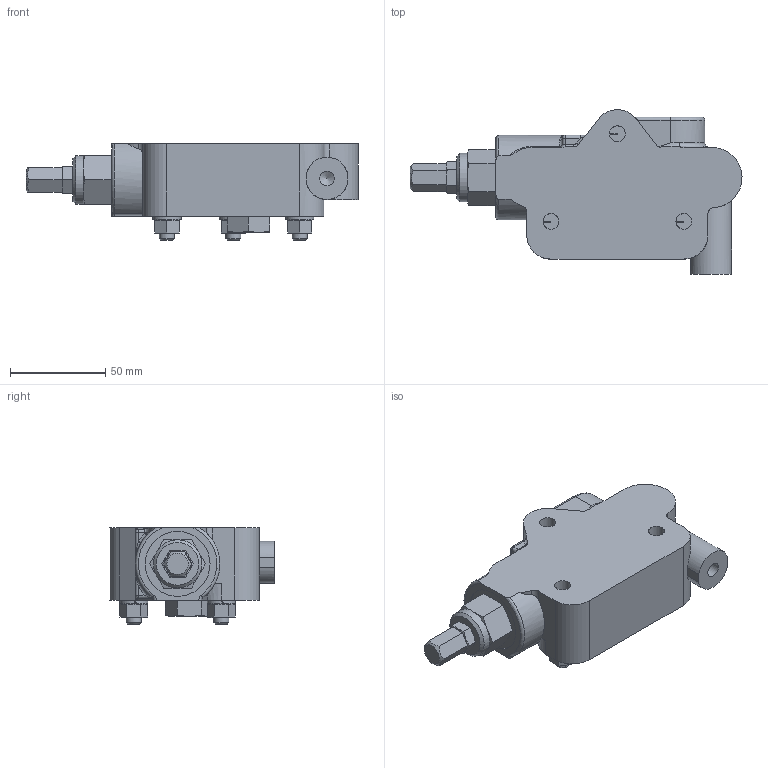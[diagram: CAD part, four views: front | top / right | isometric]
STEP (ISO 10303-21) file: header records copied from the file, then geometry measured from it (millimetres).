
FILE_DESCRIPTION((''),'2;1');
FILE_NAME('C:\Vault\Workspace\z_ShellModels\WIP-temp\SVI15_Shell.stp','2012-02-09T10:51:01',('PetersW'),(''),'Autodesk Inventor 2011','Autodesk Inventor 2011','');
FILE_SCHEMA(('AUTOMOTIVE_DESIGN { 1 0 10303 214 1 1 1 1 }'));
Length unit declared in the file: inch
Products named in the file (3): Assembly12; SVI15-Shell; 200300040
Assembly tree (2 placements, depth 2):
  Assembly12
    SVI15-Shell
    200300040
Bounding box: 174.52 x 86.47 x 50.8 mm (x, y, z)
Volume: 298521.1 mm3; surface area: 48074.5 mm2
Topology: 2 solids, 5 shells, 314 faces, 748 edges, 446 vertices
Faces by surface type: plane 121, cone 98, cylinder 67, torus 12, bspline 12, sphere 4
Full cylindrical faces by diameter (mm): 7.798 x1, 7.925 x3, 7.938 x1, 8.331 x3, 8.382 x2, 14.656 x1, 16.764 x1, 17.043 x2, 17.399 x1, 17.475 x1, 17.501 x2, 19.05 x1, 19.685 x1, 20.472 x1, 25.4 x1, 30.429 x2, 34.138 x1
Entity records: 9224 total; most frequent: CARTESIAN_POINT 2343, DIRECTION 1351, ORIENTED_EDGE 1332, EDGE_CURVE 666, AXIS2_PLACEMENT_3D 574, VERTEX_POINT 422, EDGE_LOOP 384, FACE_OUTER_BOUND 314
